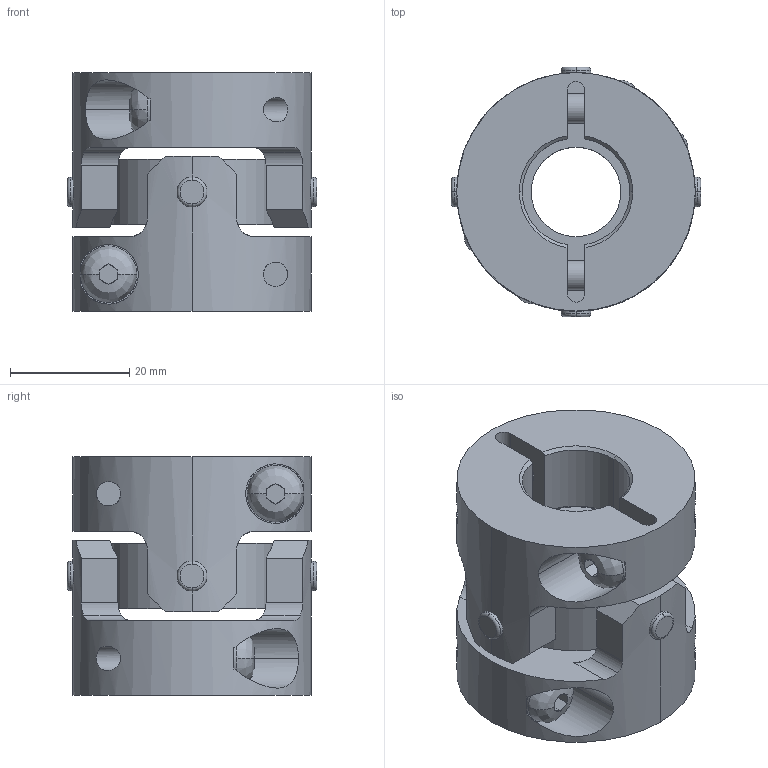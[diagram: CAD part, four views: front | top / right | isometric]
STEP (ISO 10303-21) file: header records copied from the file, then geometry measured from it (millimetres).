
FILE_DESCRIPTION((''),'2;1');
FILE_NAME('UA-40C-18×18.stp','2013-11-19T08:32:23',(''),(''),'AutoCAD STEP 2000i','AutoCAD 2000i',', , ');
FILE_SCHEMA(('CONFIG_CONTROL_DESIGN'));
Length unit declared in the file: millimetre
Products named in the file (8): UA-40C-18×18; 忣兜1; UA-4002-D18-1; BTN-M5; UA-4002-D18; UA-4002-D08-1; UA-4002-D08; UA40-SEN
Assembly tree (10 placements, depth 3):
  UA-40C-18×18
    忣兜1
    UA-4002-D18-1
      BTN-M5
    UA-4002-D18
      BTN-M5
    UA-4002-D08-1
      BTN-M5
    UA-4002-D08
      BTN-M5
    UA40-SEN
Bounding box: 41.81 x 41.81 x 40 mm (x, y, z)
Volume: 31702.6 mm3; surface area: 14759.5 mm2
Topology: 1 solids, 1 shells, 254 faces, 662 edges, 416 vertices
Faces by surface type: plane 126, cylinder 96, cone 16, bspline 8, torus 8
Entity records: 9783 total; most frequent: CARTESIAN_POINT 3355, DIRECTION 1328, ORIENTED_EDGE 1324, EDGE_CURVE 662, AXIS2_PLACEMENT_3D 513, VERTEX_POINT 416, VECTOR 302, LINE 302
